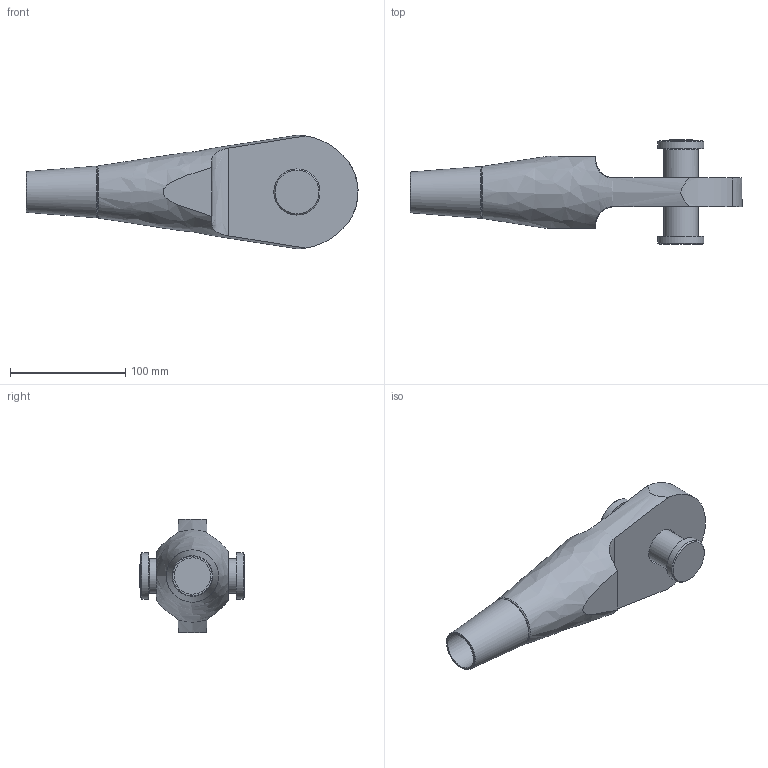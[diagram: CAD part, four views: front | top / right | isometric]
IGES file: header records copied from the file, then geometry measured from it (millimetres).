
Global section: file name: 520-030-OES; native system: Autodesk Inventor 2016; preprocessor: unknown; author: Administrator; date: 20200626.101225; units: centimetre
Bounding box: 287.96 x 90.75 x 98.25 mm (x, y, z)
Volume: 640283.1 mm3; surface area: 76788.1 mm2
Topology: 2 solids, 3 shells, 49 faces, 119 edges, 81 vertices
Faces by surface type: bspline 49
